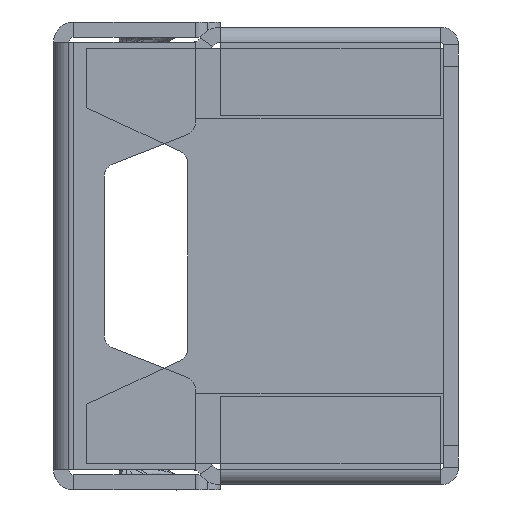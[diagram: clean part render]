
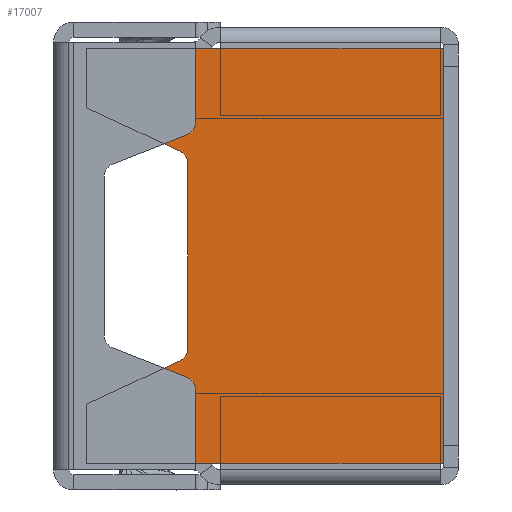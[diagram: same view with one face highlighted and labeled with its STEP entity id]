
A CAD part, left-side view. The second image highlights one B-rep face of the part: STEP entity #17007.
In plain terms, the highlighted planar face has unit normal (-1, 0, 0) as drawn and (0, 0, 1) by its records, which use the part's own axes.
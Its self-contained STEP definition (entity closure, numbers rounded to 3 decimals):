
#16472=CARTESIAN_POINT('',(-3.681,3.55,2.1));
#16473=DIRECTION('',(0.,0.,-1.));
#16474=DIRECTION('',(0.,-1.,0.));
#16475=AXIS2_PLACEMENT_3D('',#16472,#16473,#16474);
#16490=CARTESIAN_POINT('',(3.681,3.55,2.1));
#16491=DIRECTION('',(0.,0.,-1.));
#16492=DIRECTION('',(0.907,-0.422,0.));
#16493=AXIS2_PLACEMENT_3D('',#16490,#16491,#16492);
#16532=DIRECTION('',(1.,0.,0.));
#16533=VECTOR('',#16532,7.362);
#16534=CARTESIAN_POINT('',(-3.681,3.05,2.1));
#16535=LINE('',#16534,#16533);
#16536=DIRECTION('',(0.422,0.907,0.));
#16537=VECTOR('',#16536,4.093);
#16538=CARTESIAN_POINT('',(4.134,3.339,2.1));
#16539=LINE('',#16538,#16537);
#16540=DIRECTION('',(-1.,0.,0.));
#16541=VECTOR('',#16540,2.34);
#16542=CARTESIAN_POINT('',(8.2,7.05,2.1));
#16543=LINE('',#16542,#16541);
#16544=DIRECTION('',(0.,1.,0.));
#16545=VECTOR('',#16544,14.1);
#16546=CARTESIAN_POINT('',(8.2,-7.05,2.1));
#16547=LINE('',#16546,#16545);
#16548=DIRECTION('',(1.,0.,0.));
#16549=VECTOR('',#16548,16.4);
#16550=CARTESIAN_POINT('',(-8.2,-7.05,2.1));
#16551=LINE('',#16550,#16549);
#16552=DIRECTION('',(0.,-1.,0.));
#16553=VECTOR('',#16552,14.1);
#16554=CARTESIAN_POINT('',(-8.2,7.05,2.1));
#16555=LINE('',#16554,#16553);
#16556=DIRECTION('',(-1.,0.,0.));
#16557=VECTOR('',#16556,2.34);
#16558=CARTESIAN_POINT('',(-5.86,7.05,2.1));
#16559=LINE('',#16558,#16557);
#16560=DIRECTION('',(0.422,-0.907,0.));
#16561=VECTOR('',#16560,4.093);
#16562=CARTESIAN_POINT('',(-5.86,7.05,2.1));
#16563=LINE('',#16562,#16561);
#16722=CARTESIAN_POINT('',(-8.2,7.05,2.1));
#16723=CARTESIAN_POINT('',(-8.2,-7.05,2.1));
#16724=VERTEX_POINT('',#16722);
#16725=VERTEX_POINT('',#16723);
#16726=CARTESIAN_POINT('',(8.2,-7.05,2.1));
#16727=VERTEX_POINT('',#16726);
#16728=CARTESIAN_POINT('',(8.2,7.05,2.1));
#16729=VERTEX_POINT('',#16728);
#16734=CARTESIAN_POINT('',(5.86,7.05,2.1));
#16735=VERTEX_POINT('',#16734);
#16736=CARTESIAN_POINT('',(-5.86,7.05,2.1));
#16737=VERTEX_POINT('',#16736);
#16738=CARTESIAN_POINT('',(-3.681,3.05,2.1));
#16740=VERTEX_POINT('',#16738);
#16742=CARTESIAN_POINT('',(-4.134,3.339,2.1));
#16744=VERTEX_POINT('',#16742);
#16746=CARTESIAN_POINT('',(4.134,3.339,2.1));
#16748=VERTEX_POINT('',#16746);
#16750=CARTESIAN_POINT('',(3.681,3.05,2.1));
#16752=VERTEX_POINT('',#16750);
#16987=CARTESIAN_POINT('',(0.,0.,2.1));
#16988=DIRECTION('',(0.,0.,1.));
#16989=DIRECTION('',(1.,0.,0.));
#16990=AXIS2_PLACEMENT_3D('',#16987,#16988,#16989);
#16991=PLANE('',#16990);
#16992=ORIENTED_EDGE('',*,*,#16874,.T.);
#16993=ORIENTED_EDGE('',*,*,#16886,.F.);
#16994=ORIENTED_EDGE('',*,*,#16908,.T.);
#16995=ORIENTED_EDGE('',*,*,#16934,.F.);
#16997=ORIENTED_EDGE('',*,*,#16996,.F.);
#16999=ORIENTED_EDGE('',*,*,#16998,.F.);
#17001=ORIENTED_EDGE('',*,*,#17000,.F.);
#17002=ORIENTED_EDGE('',*,*,#16949,.F.);
#17003=ORIENTED_EDGE('',*,*,#16838,.T.);
#17004=ORIENTED_EDGE('',*,*,#16858,.F.);
#17005=EDGE_LOOP('',(#16992,#16993,#16994,#16995,#16997,#16999,#17001,#17002,
#17003,#17004));
#17006=FACE_OUTER_BOUND('',#17005,.F.);
#17007=ADVANCED_FACE('',(#17006),#16991,.T.);
#16476=CIRCLE('',#16475,0.5);
#16494=CIRCLE('',#16493,0.5);
#16838=EDGE_CURVE('',#16737,#16744,#16563,.T.);
#16858=EDGE_CURVE('',#16740,#16744,#16476,.T.);
#16874=EDGE_CURVE('',#16740,#16752,#16535,.T.);
#16886=EDGE_CURVE('',#16748,#16752,#16494,.T.);
#16908=EDGE_CURVE('',#16748,#16735,#16539,.T.);
#16934=EDGE_CURVE('',#16729,#16735,#16543,.T.);
#16949=EDGE_CURVE('',#16737,#16724,#16559,.T.);
#16996=EDGE_CURVE('',#16727,#16729,#16547,.T.);
#16998=EDGE_CURVE('',#16725,#16727,#16551,.T.);
#17000=EDGE_CURVE('',#16724,#16725,#16555,.T.);
